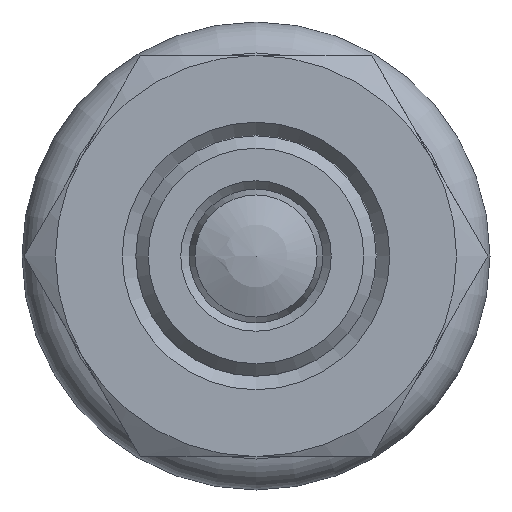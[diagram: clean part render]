
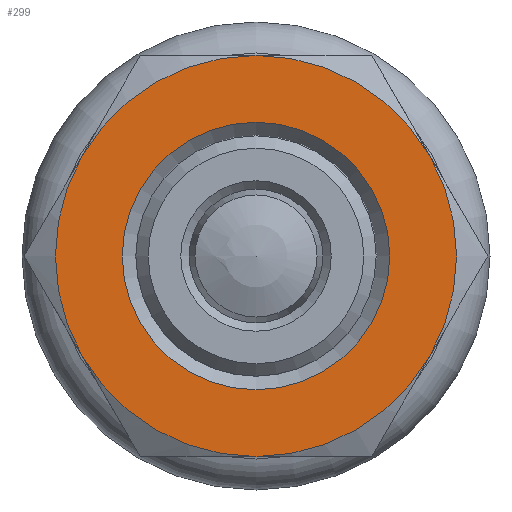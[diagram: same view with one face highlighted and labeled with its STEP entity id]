
A CAD part, front view. The second image highlights one B-rep face of the part: STEP entity #299.
In plain terms, the highlighted planar face has unit normal (0, -1, 0).
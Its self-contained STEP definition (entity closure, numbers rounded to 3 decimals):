
#299 = ADVANCED_FACE( '', ( #450, #451 ), #452, .F. );
#450 = FACE_BOUND( '', #638, .T. );
#451 = FACE_OUTER_BOUND( '', #639, .T. );
#452 = PLANE( '', #640 );
#638 = EDGE_LOOP( '', ( #983 ) );
#639 = EDGE_LOOP( '', ( #984, #985, #986, #987, #988, #989 ) );
#640 = AXIS2_PLACEMENT_3D( '', #990, #991, #992 );
#983 = ORIENTED_EDGE( '', *, *, #1094, .F. );
#984 = ORIENTED_EDGE( '', *, *, #1097, .T. );
#985 = ORIENTED_EDGE( '', *, *, #1098, .T. );
#986 = ORIENTED_EDGE( '', *, *, #1064, .T. );
#987 = ORIENTED_EDGE( '', *, *, #1089, .T. );
#988 = ORIENTED_EDGE( '', *, *, #1090, .T. );
#989 = ORIENTED_EDGE( '', *, *, #1091, .T. );
#990 = CARTESIAN_POINT( '', ( 12., 0., 0. ) );
#991 = DIRECTION( '', ( 0., 1., 0. ) );
#992 = DIRECTION( '', ( 0., 0., 1. ) );
#1064 = EDGE_CURVE( '', #1206, #1207, #1208, .T. );
#1089 = EDGE_CURVE( '', #1207, #1188, #1245, .T. );
#1090 = EDGE_CURVE( '', #1188, #1200, #1246, .T. );
#1091 = EDGE_CURVE( '', #1200, #1247, #1248, .T. );
#1094 = EDGE_CURVE( '', #1251, #1251, #1252, .T. );
#1097 = EDGE_CURVE( '', #1247, #1215, #1257, .T. );
#1098 = EDGE_CURVE( '', #1215, #1206, #1258, .T. );
#1188 = VERTEX_POINT( '', #1479 );
#1200 = VERTEX_POINT( '', #1517 );
#1206 = VERTEX_POINT( '', #1547 );
#1207 = VERTEX_POINT( '', #1548 );
#1208 = CIRCLE( '', #1549, 12. );
#1215 = VERTEX_POINT( '', #1569 );
#1245 = CIRCLE( '', #1673, 12. );
#1246 = CIRCLE( '', #1674, 12. );
#1247 = VERTEX_POINT( '', #1675 );
#1248 = CIRCLE( '', #1676, 12. );
#1251 = VERTEX_POINT( '', #1691 );
#1252 = CIRCLE( '', #1692, 8. );
#1257 = CIRCLE( '', #1697, 12. );
#1258 = CIRCLE( '', #1698, 12. );
#1479 = CARTESIAN_POINT( '', ( -12., 0., 0. ) );
#1517 = CARTESIAN_POINT( '', ( -6., 0., -10.392 ) );
#1547 = CARTESIAN_POINT( '', ( 6., 0., 10.392 ) );
#1548 = CARTESIAN_POINT( '', ( -6., 0., 10.392 ) );
#1549 = AXIS2_PLACEMENT_3D( '', #1792, #1793, #1794 );
#1569 = CARTESIAN_POINT( '', ( 12., 0., 0. ) );
#1673 = AXIS2_PLACEMENT_3D( '', #1819, #1820, #1821 );
#1674 = AXIS2_PLACEMENT_3D( '', #1822, #1823, #1824 );
#1675 = CARTESIAN_POINT( '', ( 6., 0., -10.392 ) );
#1676 = AXIS2_PLACEMENT_3D( '', #1825, #1826, #1827 );
#1691 = CARTESIAN_POINT( '', ( 0., 0., -8. ) );
#1692 = AXIS2_PLACEMENT_3D( '', #1828, #1829, #1830 );
#1697 = AXIS2_PLACEMENT_3D( '', #1837, #1838, #1839 );
#1698 = AXIS2_PLACEMENT_3D( '', #1840, #1841, #1842 );
#1792 = CARTESIAN_POINT( '', ( 0., 0., 0. ) );
#1793 = DIRECTION( '', ( 0., -1., 0. ) );
#1794 = DIRECTION( '', ( 0., 0., -1. ) );
#1819 = CARTESIAN_POINT( '', ( 0., 0., 0. ) );
#1820 = DIRECTION( '', ( 0., -1., 0. ) );
#1821 = DIRECTION( '', ( 0., 0., -1. ) );
#1822 = CARTESIAN_POINT( '', ( 0., 0., 0. ) );
#1823 = DIRECTION( '', ( 0., -1., 0. ) );
#1824 = DIRECTION( '', ( 0., 0., -1. ) );
#1825 = CARTESIAN_POINT( '', ( 0., 0., 0. ) );
#1826 = DIRECTION( '', ( 0., -1., 0. ) );
#1827 = DIRECTION( '', ( 0., 0., -1. ) );
#1828 = CARTESIAN_POINT( '', ( 0., 0., 0. ) );
#1829 = DIRECTION( '', ( 0., -1., 0. ) );
#1830 = DIRECTION( '', ( 0., 0., -1. ) );
#1837 = CARTESIAN_POINT( '', ( 0., 0., 0. ) );
#1838 = DIRECTION( '', ( 0., -1., 0. ) );
#1839 = DIRECTION( '', ( 0., 0., -1. ) );
#1840 = CARTESIAN_POINT( '', ( 0., 0., 0. ) );
#1841 = DIRECTION( '', ( 0., -1., 0. ) );
#1842 = DIRECTION( '', ( 0., 0., -1. ) );
